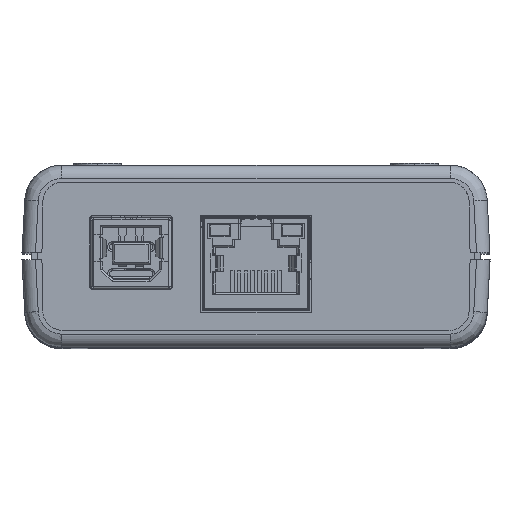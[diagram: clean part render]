
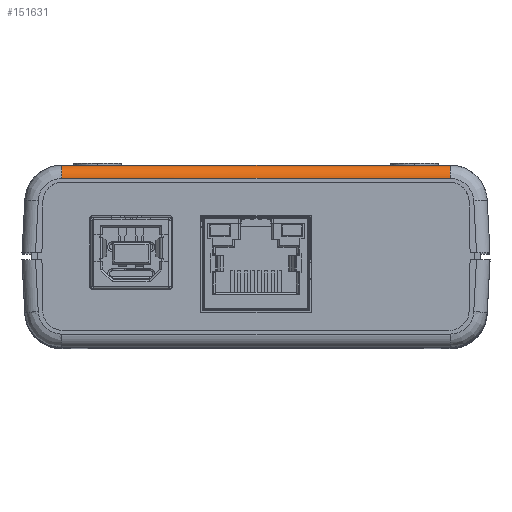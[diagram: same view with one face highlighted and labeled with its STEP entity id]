
A CAD part, top view. The second image highlights one B-rep face of the part: STEP entity #151631.
In plain terms, the highlighted cylindrical face has radius 2 mm (diameter 4 mm), a partial arc.
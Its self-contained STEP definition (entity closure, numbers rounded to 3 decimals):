
#7669 = CARTESIAN_POINT ( 'NONE',  ( -148.645, -1.706, 1.38 ) ) ;
#9585 = ORIENTED_EDGE ( 'NONE', *, *, #53378, .T. ) ;
#10488 = B_SPLINE_CURVE_WITH_KNOTS ( 'NONE', 3,
 ( #86696, #89818, #151632, #88758, #167567, #40714, #153695, #138820, #7669, #203729 ),
 .UNSPECIFIED., .F., .F.,
 ( 4, 2, 2, 2, 4 ),
 ( 0., 0.25, 0.5, 0.75, 1. ),
 .UNSPECIFIED. ) ;
#11104 = EDGE_CURVE ( 'NONE', #135799, #129163, #170203, .T. ) ;
#14868 = CARTESIAN_POINT ( 'NONE',  ( -91.083, 0., -0.615 ) ) ;
#32933 = CARTESIAN_POINT ( 'NONE',  ( -91.083, -0.247, 0.382 ) ) ;
#39868 = CARTESIAN_POINT ( 'NONE',  ( -91.083, -1.965, 1.384 ) ) ;
#40714 = CARTESIAN_POINT ( 'NONE',  ( -148.645, -0.755, 0.971 ) ) ;
#44083 = VERTEX_POINT ( 'NONE', #39868 ) ;
#47953 = CARTESIAN_POINT ( 'NONE',  ( -91.083, -0.392, 0.602 ) ) ;
#48173 = VERTEX_POINT ( 'NONE', #196787 ) ;
#50018 = CARTESIAN_POINT ( 'NONE',  ( -91.083, -0.051, -0.098 ) ) ;
#50698 = CARTESIAN_POINT ( 'NONE',  ( -119.864, -1.965, 1.384 ) ) ;
#51397 = ORIENTED_EDGE ( 'NONE', *, *, #114574, .T. ) ;
#53378 = EDGE_CURVE ( 'NONE', #129163, #48173, #10488, .T. ) ;
#64024 = CARTESIAN_POINT ( 'NONE',  ( -91.083, 0., -0.357 ) ) ;
#76014 = CYLINDRICAL_SURFACE ( 'NONE', #144348, 2. ) ;
#81285 = ORIENTED_EDGE ( 'NONE', *, *, #11104, .T. ) ;
#86696 = CARTESIAN_POINT ( 'NONE',  ( -148.645, 0., -0.615 ) ) ;
#87388 = VECTOR ( 'NONE', #195638, 1000. ) ;
#88758 = CARTESIAN_POINT ( 'NONE',  ( -148.645, -0.247, 0.382 ) ) ;
#89818 = CARTESIAN_POINT ( 'NONE',  ( -148.645, 0., -0.357 ) ) ;
#90991 = DIRECTION ( 'NONE',  ( -1., 0., 0. ) ) ;
#104432 = CARTESIAN_POINT ( 'NONE',  ( -148.645, 0., -0.615 ) ) ;
#108689 = CARTESIAN_POINT ( 'NONE',  ( -91.083, 0., -0.615 ) ) ;
#112019 = CARTESIAN_POINT ( 'NONE',  ( -91.083, -1.965, 1.384 ) ) ;
#112599 = EDGE_CURVE ( 'NONE', #44083, #48173, #114787, .T. ) ;
#114574 = EDGE_CURVE ( 'NONE', #44083, #135799, #172551, .T. ) ;
#114787 = LINE ( 'NONE', #50698, #87388 ) ;
#119033 = ORIENTED_EDGE ( 'NONE', *, *, #112599, .F. ) ;
#123564 = CARTESIAN_POINT ( 'NONE',  ( -91.083, 0., -0.615 ) ) ;
#129163 = VERTEX_POINT ( 'NONE', #163987 ) ;
#130030 = CARTESIAN_POINT ( 'NONE',  ( -91.083, -0.755, 0.971 ) ) ;
#135799 = VERTEX_POINT ( 'NONE', #108689 ) ;
#137622 = EDGE_LOOP ( 'NONE', ( #81285, #9585, #119033, #51397 ) ) ;
#138453 = CARTESIAN_POINT ( 'NONE',  ( -129.458, 0., -0.615 ) ) ;
#138820 = CARTESIAN_POINT ( 'NONE',  ( -148.645, -1.448, 1.324 ) ) ;
#138927 = CARTESIAN_POINT ( 'NONE',  ( -119.864, -2., -0.615 ) ) ;
#142077 = DIRECTION ( 'NONE',  ( 0., 1., 0. ) ) ;
#144348 = AXIS2_PLACEMENT_3D ( 'NONE', #138927, #90991, #142077 ) ;
#149157 = CARTESIAN_POINT ( 'NONE',  ( -91.083, -1.448, 1.324 ) ) ;
#151631 = ADVANCED_FACE ( 'NONE', ( #153820 ), #76014, .T. ) ;
#151632 = CARTESIAN_POINT ( 'NONE',  ( -148.645, -0.051, -0.098 ) ) ;
#153695 = CARTESIAN_POINT ( 'NONE',  ( -148.645, -0.973, 1.12 ) ) ;
#153820 = FACE_OUTER_BOUND ( 'NONE', #137622, .T. ) ;
#163987 = CARTESIAN_POINT ( 'NONE',  ( -148.645, 0., -0.615 ) ) ;
#167567 = CARTESIAN_POINT ( 'NONE',  ( -148.645, -0.392, 0.602 ) ) ;
#170203 = B_SPLINE_CURVE_WITH_KNOTS ( 'NONE', 3,
 ( #123564, #172459, #138453, #104432 ),
 .UNSPECIFIED., .F., .F.,
 ( 4, 4 ),
 ( 0., 1. ),
 .UNSPECIFIED. ) ;
#172459 = CARTESIAN_POINT ( 'NONE',  ( -110.27, 0., -0.615 ) ) ;
#172551 = B_SPLINE_CURVE_WITH_KNOTS ( 'NONE', 3,
 ( #112019, #176889, #149157, #181106, #130030, #47953, #32933, #50018, #64024, #14868 ),
 .UNSPECIFIED., .F., .F.,
 ( 4, 2, 2, 2, 4 ),
 ( 0., 0.25, 0.5, 0.75, 1. ),
 .UNSPECIFIED. ) ;
#176889 = CARTESIAN_POINT ( 'NONE',  ( -91.083, -1.706, 1.38 ) ) ;
#181106 = CARTESIAN_POINT ( 'NONE',  ( -91.083, -0.973, 1.12 ) ) ;
#195638 = DIRECTION ( 'NONE',  ( -1., 0., 0. ) ) ;
#196787 = CARTESIAN_POINT ( 'NONE',  ( -148.645, -1.965, 1.384 ) ) ;
#203729 = CARTESIAN_POINT ( 'NONE',  ( -148.645, -1.965, 1.384 ) ) ;
